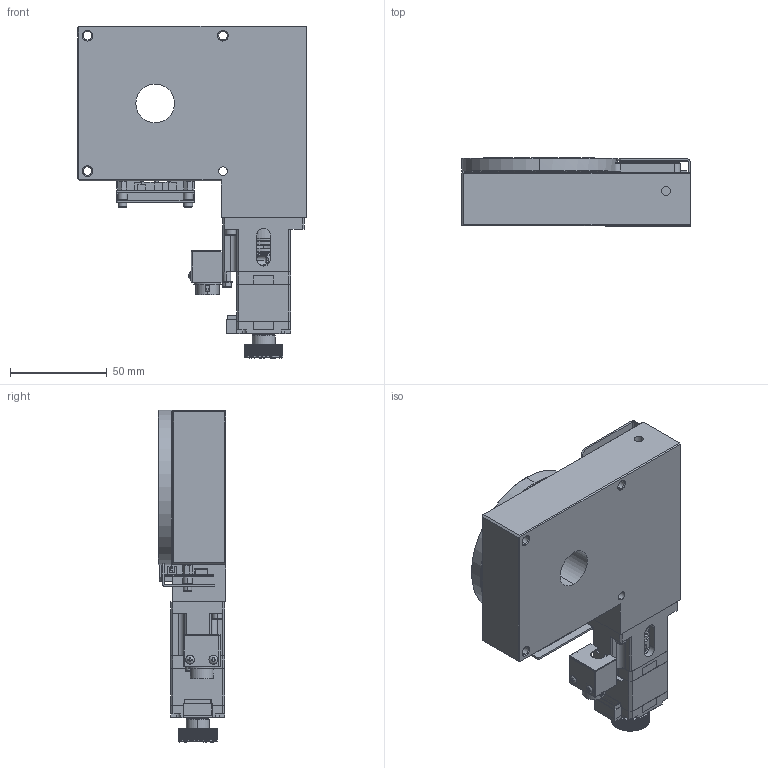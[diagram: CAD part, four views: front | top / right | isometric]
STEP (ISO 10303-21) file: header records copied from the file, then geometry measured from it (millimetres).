
FILE_DESCRIPTION (( 'STEP AP214' ), '1' );
FILE_NAME ('TRA8020-L1-M28.STEP', '2025-01-03T08:04:53', ( '' ), ( '' ), 'SwSTEP 2.0', 'SolidWorks 2020', '' );
FILE_SCHEMA (( 'AUTOMOTIVE_DESIGN' ));
Length unit declared in the file: millimetre
Products named in the file (1): TRA8020-L1-M28
Bounding box: 118 x 35 x 171.5 mm (x, y, z)
Volume: 340592.4 mm3; surface area: 93390.4 mm2
Topology: 6 solids, 34 shells, 2172 faces, 5665 edges, 3575 vertices
Faces by surface type: plane 1126, cylinder 750, cone 225, torus 41, bspline 28, sphere 2
Entity records: 97532 total; most frequent: CARTESIAN_POINT 21327, ORIENTED_EDGE 11130, DIRECTION 10463, EDGE_CURVE 5565, AXIS2_PLACEMENT_3D 3735, VERTEX_POINT 3569, VECTOR 2993, LINE 2993
